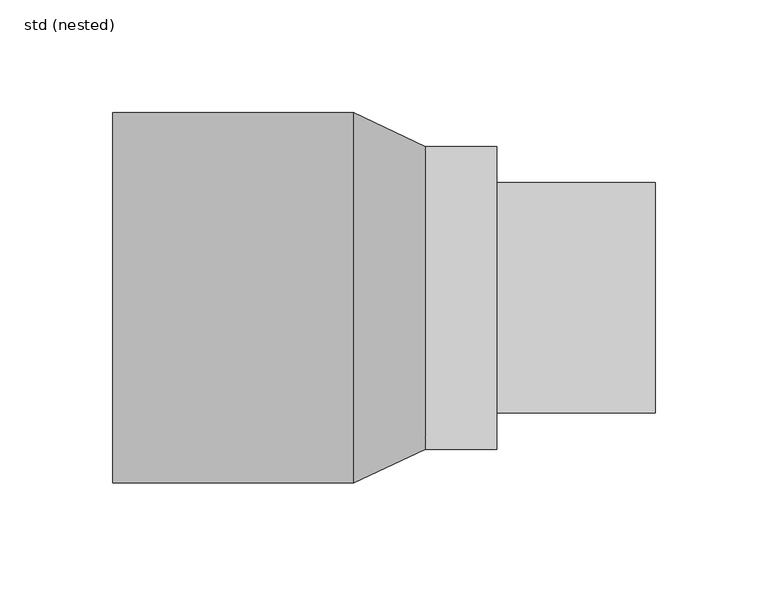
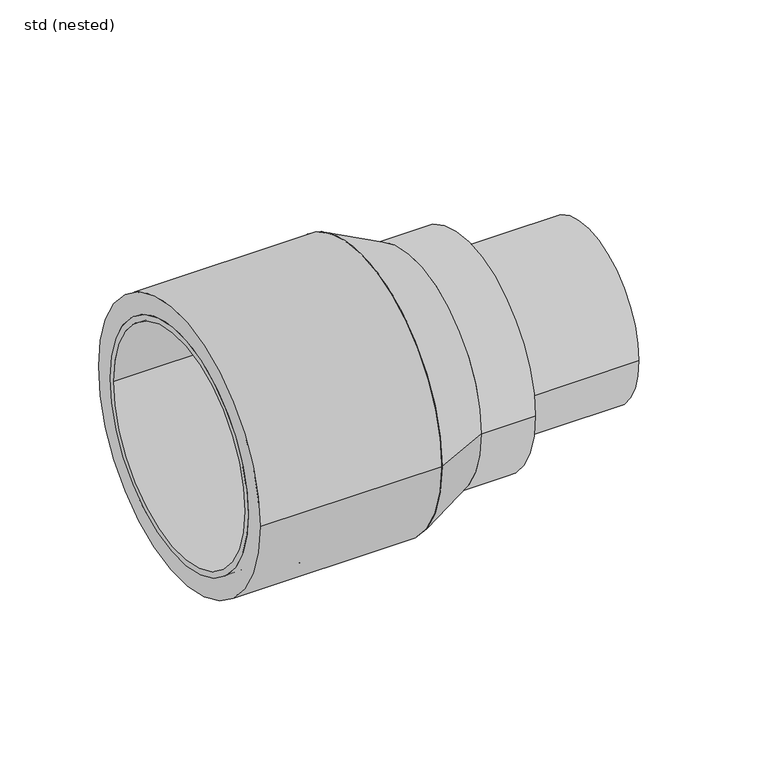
"""IFC4 building model written with IfcOpenShell, lengths in millimetres: pipe fitting geometry, ZZZ_do not use_PIF_ST_WPB_GM-X compound pipe optimiser_ACO : std (nested)."""

import ifcopenshell
import ifcopenshell.guid

model = None  # the IFC model being written
_history = None  # IfcOwnerHistory: only IFC2X3 demands one
_inside = {}  # id of a spatial element -> (the spatial element, [elements in it])
_under = {}  # id of a project, library or spatial element -> (it, [spatial elements below it])
_declared = {}  # id of a project -> (the project, [libraries it declares])
_typed = {}  # id of a type object -> (the type object, [elements of that type])
_made_of = {}  # id of a material, layer set ... -> (it, [elements and type objects made of it])


def new_model(schema):
    """Start an empty IFC model of exactly this schema.

    Asked for "IFC4X3", IfcOpenShell would pick the latest addendum, in which some entities
    have other attributes; the version numbers below select the first issue.
    IFC2X3 requires an IfcOwnerHistory on every rooted entity: one is made here for all.
    """
    global model, _history
    if schema == "IFC4X3":
        model = ifcopenshell.file(schema_version=(4, 3, 0, 0))
    else:
        model = ifcopenshell.file(schema=schema)
    _inside.clear()
    _under.clear()
    _declared.clear()
    _typed.clear()
    _made_of.clear()
    _history = None
    if model.schema == "IFC2X3":
        org = make("IfcOrganization", Name="unknown")
        user = make(
            "IfcPersonAndOrganization",
            ThePerson=make("IfcPerson", FamilyName="unknown"),
            TheOrganization=org,
        )
        app = make(
            "IfcApplication",
            ApplicationDeveloper=org,
            Version="unknown",
            ApplicationFullName="unknown",
            ApplicationIdentifier="unknown",
        )
        _history = make(
            "IfcOwnerHistory",
            OwningUser=user,
            OwningApplication=app,
            ChangeAction="ADDED",
            CreationDate=0,
        )
    return model


def make(cls, **values):
    """One entity of the class cls with the attributes given. An attribute that is None is left unset."""
    return model.create_entity(
        cls, **{name: value for name, value in values.items() if value is not None}
    )


def rooted(cls, **values):
    """An entity with a GlobalId (a new one), such as an element, a storey or a relation."""
    return make(cls, GlobalId=ifcopenshell.guid.new(), OwnerHistory=_history, **values)


def si_unit(unit_type, name, prefix=None):
    """IfcSIUnit, for example si_unit("LENGTHUNIT", "METRE", prefix="MILLI")."""
    return make("IfcSIUnit", UnitType=unit_type, Prefix=prefix, Name=name)


def assignment(units):
    """IfcUnitAssignment: the units of a project."""
    return None if units is None else make("IfcUnitAssignment", Units=units)


def point(xyz):
    """IfcCartesianPoint."""
    return None if xyz is None else make("IfcCartesianPoint", Coordinates=xyz)


def direction(xyz):
    """IfcDirection."""
    return None if xyz is None else make("IfcDirection", DirectionRatios=xyz)


def frame(location, z_axis=None, x_axis=None):
    """IfcAxis2Placement3D, a coordinate frame: its origin and axes. An axis left out is left unset."""
    return make(
        "IfcAxis2Placement3D",
        Location=point(location),
        Axis=direction(z_axis),
        RefDirection=direction(x_axis),
    )


def frame_2d(location, x_axis=None):
    """IfcAxis2Placement2D, a coordinate frame in the plane: its origin and x axis."""
    return make(
        "IfcAxis2Placement2D", Location=point(location), RefDirection=direction(x_axis)
    )


def origin():
    """The frame at (0, 0, 0) with its axes left unset."""
    return frame((0.0, 0.0, 0.0))


def origin_2d():
    """The frame at (0, 0) in the plane with its x axis left unset."""
    return frame_2d((0.0, 0.0))


def place(relative_to, where):
    """IfcLocalPlacement: puts the frame where relative to a parent placement (None: the world)."""
    return make(
        "IfcLocalPlacement", PlacementRelTo=relative_to, RelativePlacement=where
    )


def context(
    kind, dimensions, precision=None, world=None, true_north=None, identifier=None
):
    """IfcGeometricRepresentationContext, for example the 3D "Model" context."""
    return make(
        "IfcGeometricRepresentationContext",
        ContextIdentifier=identifier,
        ContextType=kind,
        CoordinateSpaceDimension=dimensions,
        Precision=precision,
        WorldCoordinateSystem=world,
        TrueNorth=true_north,
    )


def project(units=None, contexts=None):
    """IfcProject with its units and contexts."""
    return rooted(
        "IfcProject",
        Name="project",
        RepresentationContexts=contexts,
        UnitsInContext=assignment(units),
    )


def spatial(cls, under=None, at=None, **own):
    """A site, building, storey or space (cls), placed at a placement, below another one or the project."""
    s = rooted(cls, ObjectPlacement=at, **own)
    if under is not None:
        _under.setdefault(under.id(), (under, []))[1].append(s)
    return s


def polyline(points):
    """IfcPolyline through the points."""
    return make("IfcPolyline", Points=[point(p) for p in points])


def circle_curve(where, radius):
    """IfcCircle in the frame where."""
    return make("IfcCircle", Position=where, Radius=radius)


def trimmed(basis, trim1, trim2, sense, master):
    """IfcTrimmedCurve: the piece of a basis curve between two trims."""
    return make(
        "IfcTrimmedCurve",
        BasisCurve=basis,
        Trim1=trim1,
        Trim2=trim2,
        SenseAgreement=sense,
        MasterRepresentation=master,
    )


def segment(curve, same_sense, transition):
    """IfcCompositeCurveSegment."""
    return make(
        "IfcCompositeCurveSegment",
        Transition=transition,
        SameSense=same_sense,
        ParentCurve=curve,
    )


def composite_curve(segments, self_intersect=None):
    """IfcCompositeCurve: segments joined end to end."""
    return make("IfcCompositeCurve", Segments=segments, SelfIntersect=self_intersect)


def outline(outer, holes=None, kind="AREA"):
    """IfcArbitraryClosedProfileDef: a profile drawn as a closed curve; with holes, ...WithVoids."""
    if holes is None:
        return make("IfcArbitraryClosedProfileDef", ProfileType=kind, OuterCurve=outer)
    return make(
        "IfcArbitraryProfileDefWithVoids",
        ProfileType=kind,
        OuterCurve=outer,
        InnerCurves=holes,
    )


def extrude(swept, where, along, depth):
    """IfcExtrudedAreaSolid: the profile swept, set in the frame where, extruded along a direction by depth."""
    return make(
        "IfcExtrudedAreaSolid",
        SweptArea=swept,
        Position=where,
        ExtrudedDirection=direction(along),
        Depth=depth,
    )


def shape(context_of_items, identifier, shape_type, items):
    """IfcShapeRepresentation: the items that make up one representation, for example the "Body"."""
    return make(
        "IfcShapeRepresentation",
        ContextOfItems=context_of_items,
        RepresentationIdentifier=identifier,
        RepresentationType=shape_type,
        Items=items,
    )


def source(mapping_origin, context_of_items, identifier, shape_type, items):
    """IfcRepresentationMap: a shape defined once, which mapped items show again and again."""
    return make(
        "IfcRepresentationMap",
        MappingOrigin=mapping_origin,
        MappedRepresentation=shape(context_of_items, identifier, shape_type, items),
    )


def transform(
    local_origin,
    x_axis=None,
    y_axis=None,
    z_axis=None,
    scale=None,
    scale2=None,
    scale3=None,
    uniform=True,
):
    """IfcCartesianTransformationOperator3D, or its non-uniform kind. x_axis, y_axis, z_axis: its Axis1, 2, 3."""
    if uniform:
        return make(
            "IfcCartesianTransformationOperator3D",
            Axis1=direction(x_axis),
            Axis2=direction(y_axis),
            LocalOrigin=point(local_origin),
            Scale=scale,
            Axis3=direction(z_axis),
        )
    return make(
        "IfcCartesianTransformationOperator3DnonUniform",
        Axis1=direction(x_axis),
        Axis2=direction(y_axis),
        LocalOrigin=point(local_origin),
        Scale=scale,
        Axis3=direction(z_axis),
        Scale2=scale2,
        Scale3=scale3,
    )


def mapped(mapping_source, mapping_target):
    """IfcMappedItem: shows the shape of a source again, moved by a transform."""
    return make(
        "IfcMappedItem", MappingSource=mapping_source, MappingTarget=mapping_target
    )


def made_of(thing, what):
    """Note that an element or type object is made of a material, layer set ...; save() writes the relation."""
    if what is not None:
        _made_of.setdefault(what.id(), (what, []))[1].append(thing)
    return thing


def element(
    cls,
    number,
    at=None,
    inside=None,
    cuts=None,
    type_object=None,
    material=None,
    context=None,
    identifier="Body",
    shape_type=None,
    held_by="IfcProductDefinitionShape",
    body=None,
    shapes=None,
    **own,
):
    """One element of the class cls, such as IfcWall. Its Tag is "e" and its number.

    at: its placement. inside: the storey or other place that contains it. cuts: it is an
    opening in that element (IfcRelVoidsElement). A single representation is given by context,
    identifier, shape_type and body (its items); several are given by shapes. held_by: the class
    of the entity that holds the representations. save() writes the other relations.
    """
    e = rooted(cls, Tag="e%d" % number, ObjectPlacement=at, **own)
    if body is not None:
        shapes = [shape(context, identifier, shape_type, body)]
    if shapes is not None:
        e.Representation = make(held_by, Representations=shapes)
    if inside is not None:
        _inside.setdefault(inside.id(), (inside, []))[1].append(e)
    if cuts is not None:
        rooted(
            "IfcRelVoidsElement", RelatingBuildingElement=cuts, RelatedOpeningElement=e
        )
    if type_object is not None:
        _typed.setdefault(type_object.id(), (type_object, []))[1].append(e)
    return made_of(e, material)


def aggregate(whole, parts):
    """IfcRelAggregates: a whole, such as a stair, and the parts it consists of."""
    return rooted("IfcRelAggregates", RelatingObject=whole, RelatedObjects=parts)


def save(model, path):
    """Write the relations noted so far, then the file.

    IfcRelAggregates (storeys below a building ...), IfcRelContainedInSpatialStructure (elements
    in a storey), IfcRelDefinesByType, IfcRelAssociatesMaterial and IfcRelDeclares: one each for
    every whole, place, type object, material and project.
    """
    for whole, parts in _under.values():
        aggregate(whole, parts)
    for where, things in _inside.values():
        rooted(
            "IfcRelContainedInSpatialStructure",
            RelatedElements=things,
            RelatingStructure=where,
        )
    for kind, things in _typed.values():
        rooted("IfcRelDefinesByType", RelatedObjects=things, RelatingType=kind)
    for what, things in _made_of.values():
        rooted("IfcRelAssociatesMaterial", RelatedObjects=things, RelatingMaterial=what)
    for by, libraries in _declared.values():
        rooted("IfcRelDeclares", RelatingContext=by, RelatedDefinitions=libraries)
    model.write(path)


def plane_surface(at):
    """IfcPlane: the flat surface through the origin of the frame at, square to its z axis."""
    return make("IfcPlane", Position=at)


def cylinder_surface(at, radius):
    """IfcCylindricalSurface: all points at the distance radius from the z axis of the frame at."""
    return make("IfcCylindricalSurface", Position=at, Radius=radius)


def revolved_surface(curve, axis_point, axis_direction):
    """IfcSurfaceOfRevolution: the curve turned about the line through axis_point along axis_direction."""
    return make(
        "IfcSurfaceOfRevolution",
        SweptCurve=make("IfcArbitraryOpenProfileDef", ProfileType="CURVE", Curve=curve),
        AxisPosition=make("IfcAxis1Placement", Location=point(axis_point), Axis=direction(axis_direction)),
    )


def advanced_brep(points, edges, surfaces, faces):
    """IfcAdvancedBrep: a solid bounded by faces that lie on surfaces and meet in shared edges.

    An edge is (start, end): straight between two places in points (the first is 0);
    or (start, end, curve); or (start, end, curve, False) where it runs against its curve.
    A face is (place in surfaces, loops), or (place, loops, False) where it looks against
    its surface's normal. A loop lists edges by number (the first is 1), with a minus sign
    where the edge is run from its end to its start. The first loop is the outer one.
    """
    corners = [point(p) for p in points]
    vertices = [make("IfcVertexPoint", VertexGeometry=c) for c in corners]
    made = []
    for start, end, *more in edges:
        made.append(
            make(
                "IfcEdgeCurve",
                EdgeStart=vertices[start],
                EdgeEnd=vertices[end],
                EdgeGeometry=more[0] if more else make("IfcPolyline", Points=[corners[start], corners[end]]),
                SameSense=more[1] if len(more) > 1 else True,
            )
        )
    hull = []
    for where, loops, *sense in faces:
        bounds = []
        for j, loop in enumerate(loops):
            ring = [make("IfcOrientedEdge", EdgeElement=made[abs(k) - 1], Orientation=k > 0) for k in loop]
            bounds.append(
                make(
                    "IfcFaceOuterBound" if j == 0 else "IfcFaceBound",
                    Bound=make("IfcEdgeLoop", EdgeList=ring),
                    Orientation=True,
                )
            )
        hull.append(make("IfcAdvancedFace", Bounds=bounds, FaceSurface=surfaces[where], SameSense=sense[0] if sense else True))
    return make("IfcAdvancedBrep", Outer=make("IfcClosedShell", CfsFaces=hull))


def std_nested_e47e38a7(model_context):
    return source(origin(), model_context, "Body", "SolidModel", [
        advanced_brep(
        [(-66.6, -76.0, 0.0), (-66.6, 76.0, 0.0), (-35.0, 76.0, 0.0), (-35.0, -76.0, 0.0), (-75.0, 70.0, 0.0), (-75.0, -70.0, 0.0), (-75.0, -66.5, 0.0), (-75.0, 66.5, 0.0), (0.0, 70.0, 0.0), (0.0, -70.0, 0.0), (0.0, 66.5, 0.0), (0.0, -66.5, 0.0), (-66.6, 70.0, 0.0), (-66.6, -70.0, 0.0), (-35.0, -70.0, 0.0), (-35.0, 70.0, 0.0)],
        [
            (0, 1, circle_curve(frame((-66.6, 0.0, 0.0), z_axis=(1.0, 0.0, 0.0), x_axis=(0.0, -1.0, 0.0)), 76.0)),
            (1, 2),
            (2, 3, circle_curve(frame((-35.0, 0.0, 0.0), z_axis=(-1.0, 0.0, 0.0), x_axis=(0.0, -1.0, 0.0)), 76.0)),
            (3, 0),
            (1, 0, circle_curve(frame((-66.6, 0.0, 0.0), z_axis=(1.0, 0.0, 0.0), x_axis=(0.0, -1.0, 0.0)), 76.0)),
            (3, 2, circle_curve(frame((-35.0, 0.0, 0.0), z_axis=(-1.0, 0.0, 0.0), x_axis=(0.0, -1.0, 0.0)), 76.0)),
            (4, 5, circle_curve(frame((-75.0, 0.0, 0.0), z_axis=(-1.0, 0.0, 0.0), x_axis=(0.0, -1.0, 0.0)), 70.0)),
            (5, 4, circle_curve(frame((-75.0, 0.0, 0.0), z_axis=(-1.0, 0.0, 0.0), x_axis=(0.0, -1.0, 0.0)), 70.0)),
            (6, 7, circle_curve(frame((-75.0, 0.0, 0.0), z_axis=(1.0, 0.0, 0.0), x_axis=(0.0, -1.0, 0.0)), 66.5)),
            (7, 6, circle_curve(frame((-75.0, 0.0, 0.0), z_axis=(1.0, 0.0, 0.0), x_axis=(0.0, -1.0, 0.0)), 66.5)),
            (8, 9, circle_curve(frame((0.0, 0.0, 0.0), z_axis=(1.0, 0.0, 0.0), x_axis=(0.0, -1.0, 0.0)), 70.0)),
            (9, 8, circle_curve(frame((0.0, 0.0, 0.0), z_axis=(1.0, 0.0, 0.0), x_axis=(0.0, -1.0, 0.0)), 70.0)),
            (10, 11, circle_curve(frame((0.0, 0.0, 0.0), z_axis=(-1.0, 0.0, 0.0), x_axis=(0.0, -1.0, 0.0)), 66.5)),
            (11, 10, circle_curve(frame((0.0, 0.0, 0.0), z_axis=(-1.0, 0.0, 0.0), x_axis=(0.0, -1.0, 0.0)), 66.5)),
            (4, 12),
            (12, 13, circle_curve(frame((-66.6, 0.0, 0.0), z_axis=(-1.0, 0.0, 0.0), x_axis=(0.0, -1.0, 0.0)), 70.0)),
            (13, 5),
            (9, 14),
            (14, 15, circle_curve(frame((-35.0, 0.0, 0.0), z_axis=(1.0, 0.0, 0.0), x_axis=(0.0, -1.0, 0.0)), 70.0)),
            (15, 8),
            (13, 12, circle_curve(frame((-66.6, 0.0, 0.0), z_axis=(-1.0, 0.0, 0.0), x_axis=(0.0, -1.0, 0.0)), 70.0)),
            (15, 14, circle_curve(frame((-35.0, 0.0, 0.0), z_axis=(1.0, 0.0, 0.0), x_axis=(0.0, -1.0, 0.0)), 70.0)),
            (6, 11),
            (10, 7),
        ],
        [
            cylinder_surface(frame((-35.0, 0.0, 0.0), z_axis=(-1.0, 0.0, 0.0), x_axis=(0.0, -1.0, 0.0)), 76.0),
            plane_surface(frame((-75.0, -70.0, 0.0), z_axis=(-1.0, 0.0, 0.0), x_axis=(0.0, 0.0, 1.0))),
            plane_surface(frame((0.0, -70.0, 0.0), z_axis=(1.0, 0.0, 0.0), x_axis=(0.0, 0.0, -1.0))),
            cylinder_surface(frame((0.0, 0.0, 0.0), z_axis=(-1.0, 0.0, 0.0), x_axis=(0.0, -1.0, 0.0)), 70.0),
            revolved_surface(polyline([(-75.0, -66.5, 0.0), (0.0, -66.5, 0.0)]), (0.0, 0.0, 0.0), (-1.0, 0.0, 0.0)),
            plane_surface(frame((-66.6, -76.0, 0.0), z_axis=(-1.0, 0.0, 0.0), x_axis=(0.0, 0.0, 1.0))),
            plane_surface(frame((-35.0, -76.0, 0.0), z_axis=(1.0, 0.0, 0.0), x_axis=(0.0, 0.0, -1.0))),
        ],
        [
            (0, [[1, 2, 3, 4]]),
            (0, [[5, -4, 6, -2]]),
            (1, [[7, 8], [9, 10]]),
            (2, [[11, 12], [13, 14]]),
            (3, [[-7, 15, 16, 17]]),
            (3, [[-12, 18, 19, 20]]),
            (3, [[-8, -17, 21, -15]]),
            (3, [[-11, -20, 22, -18]]),
            (4, [[23, -13, 24, -9]]),
            (4, [[-23, -10, -24, -14]]),
            (5, [[-1, -5], [-16, -21]]),
            (6, [[-6, -3], [-19, -22]]),
        ],
    ),
        advanced_brep(
        [(63.3333333, -67.0, 0.0), (63.3333333, 67.0, 0.0), (31.6666667, -82.0, 0.0), (31.6666667, 82.0, 0.0)],
        [
            (0, 1, circle_curve(frame((63.3333333, 0.0, 0.0), z_axis=(1.0, 0.0, 0.0), x_axis=(0.0, -1.0, 0.0)), 67.0)),
            (1, 0, circle_curve(frame((63.3333333, 0.0, 0.0), z_axis=(1.0, 0.0, 0.0), x_axis=(0.0, 1.0, 0.0)), 67.0)),
            (2, 3, circle_curve(frame((31.6666667, 0.0, 0.0), z_axis=(-1.0, 0.0, 0.0), x_axis=(0.0, 1.0, 0.0)), 82.0)),
            (3, 2, circle_curve(frame((31.6666667, 0.0, 0.0), z_axis=(-1.0, 0.0, 0.0), x_axis=(0.0, -1.0, 0.0)), 82.0)),
            (3, 1),
            (0, 2),
        ],
        [
            plane_surface(frame((63.3333333, 0.0, 0.0), z_axis=(1.0, 0.0, 0.0), x_axis=(0.0, 0.0, -1.0))),
            plane_surface(frame((31.6666667, 0.0, 0.0), z_axis=(-1.0, 0.0, 0.0), x_axis=(0.0, 0.0, -1.0))),
            revolved_surface(polyline([(63.33333329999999, -67.00000003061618, 0.0), (31.666666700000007, -82.0, 0.0)]), (204.7777778, 0.0, 0.0), (-1.0, 0.0, 0.0)),
            revolved_surface(polyline([(63.33333329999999, 67.00000003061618, 0.0), (31.666666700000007, 82.0, 0.0)]), (204.7777778, 0.0, 0.0), (-1.0, 0.0, 0.0)),
        ],
        [
            (0, [[1, 2]]),
            (1, [[3, 4]]),
            (2, [[-4, 5, -1, 6]]),
            (3, [[-3, -6, -2, -5]]),
        ],
    ),
        advanced_brep(
        [(-75.0, -82.0, 0.0), (-75.0, 82.0, 0.0), (-75.0, 70.0, 0.0), (-75.0, -70.0, 0.0), (31.6666667, -82.0, 0.0), (31.6666667, 82.0, 0.0), (0.0, -70.0, 0.0), (0.0, 70.0, 0.0)],
        [
            (0, 1, circle_curve(frame((-75.0, 0.0, 0.0), z_axis=(-1.0, 0.0, 0.0), x_axis=(0.0, 1.0, 0.0)), 82.0)),
            (1, 0, circle_curve(frame((-75.0, 0.0, 0.0), z_axis=(-1.0, 0.0, 0.0), x_axis=(0.0, 1.0, 0.0)), 82.0)),
            (2, 3, circle_curve(frame((-75.0, 0.0, 0.0), z_axis=(1.0, 0.0, 0.0), x_axis=(0.0, 1.0, 0.0)), 70.0)),
            (3, 2, circle_curve(frame((-75.0, 0.0, 0.0), z_axis=(1.0, 0.0, 0.0), x_axis=(0.0, 1.0, 0.0)), 70.0)),
            (4, 5, circle_curve(frame((31.6666667, 0.0, 0.0), z_axis=(1.0, 0.0, 0.0), x_axis=(0.0, 1.0, 0.0)), 82.0)),
            (5, 4, circle_curve(frame((31.6666667, 0.0, 0.0), z_axis=(1.0, 0.0, 0.0), x_axis=(0.0, 1.0, 0.0)), 82.0)),
            (0, 4),
            (5, 1),
            (6, 7, circle_curve(frame((0.0, 0.0, 0.0), z_axis=(-1.0, 0.0, 0.0), x_axis=(0.0, 1.0, 0.0)), 70.0)),
            (7, 6, circle_curve(frame((0.0, 0.0, 0.0), z_axis=(-1.0, 0.0, 0.0), x_axis=(0.0, 1.0, 0.0)), 70.0)),
            (6, 3),
            (2, 7),
        ],
        [
            plane_surface(frame((-75.0, 82.0, 0.0), z_axis=(-1.0, 0.0, 0.0), x_axis=(0.0, 0.0, -1.0))),
            plane_surface(frame((31.6666667, 82.0, 0.0), z_axis=(1.0, 0.0, 0.0), x_axis=(0.0, 0.0, 1.0))),
            cylinder_surface(frame((31.6666667, 0.0, 0.0), z_axis=(-1.0, 0.0, 0.0), x_axis=(0.0, 1.0, 0.0)), 82.0),
            plane_surface(frame((0.0, 70.0, 0.0), z_axis=(-1.0, 0.0, 0.0), x_axis=(0.0, 0.0, 1.0))),
            revolved_surface(polyline([(-75.0, 70.0, 0.0), (0.0, 70.0, 0.0)]), (0.0, 0.0, 0.0), (-1.0, 0.0, 0.0)),
        ],
        [
            (0, [[1, 2], [3, 4]]),
            (1, [[5, 6]]),
            (2, [[-1, 7, -6, 8]]),
            (2, [[-2, -8, -5, -7]]),
            (3, [[9, 10]]),
            (4, [[-9, 11, -3, 12]]),
            (4, [[-10, -12, -4, -11]]),
        ],
    ),
        extrude(outline(composite_curve([segment(trimmed(circle_curve(origin_2d(), 67.0), [point((67.0, 0.0))], [point((-67.0, 0.0))], False, "CARTESIAN"), True, "CONTINUOUS"), segment(trimmed(circle_curve(origin_2d(), 67.0), [point((-67.0, 0.0))], [point((67.0, 0.0))], False, "CARTESIAN"), True, "CONTINUOUS")], self_intersect=False)), frame((63.3333333, 0.0, 0.0), z_axis=(1.0, 0.0, 0.0), x_axis=(0.0, 1.0, 0.0)), (0.0, 0.0, 1.0), 31.6666667),
        extrude(outline(composite_curve([segment(trimmed(circle_curve(origin_2d(), 51.0), [point((51.0, 0.0))], [point((-51.0, 0.0))], False, "CARTESIAN"), True, "CONTINUOUS"), segment(trimmed(circle_curve(origin_2d(), 51.0), [point((-51.0, 0.0))], [point((51.0, 0.0))], False, "CARTESIAN"), True, "CONTINUOUS")], self_intersect=False)), frame((95.0, 0.0, 0.0), z_axis=(1.0, 0.0, 0.0), x_axis=(0.0, 1.0, 0.0)), (0.0, 0.0, 1.0), 70.0),
    ])


if __name__ == "__main__":
    model = new_model("IFC4")
    model_context = context("Model", 3, world=origin())
    ifc_project = project(units=[si_unit("LENGTHUNIT", "METRE", prefix="MILLI")], contexts=[model_context])
    site = spatial("IfcSite", under=ifc_project)
    building = spatial("IfcBuilding", under=site)
    placement = place(None, origin())
    std_nested_shape = std_nested_e47e38a7(model_context)
    element("IfcPipeFitting", 1, ObjectType="ZZZ_do not use_PIF_ST_WPB_GM-X compound pipe optimiser_ACO : std (nested)", at=placement, inside=building, context=model_context, shape_type="MappedRepresentation", body=[
        mapped(std_nested_shape, transform((0.0, 0.0, 0.0), x_axis=(1.0, 0.0, 0.0), y_axis=(0.0, 1.0, 0.0), z_axis=(0.0, 0.0, 1.0))),
    ])
    save(model, "model.ifc")
